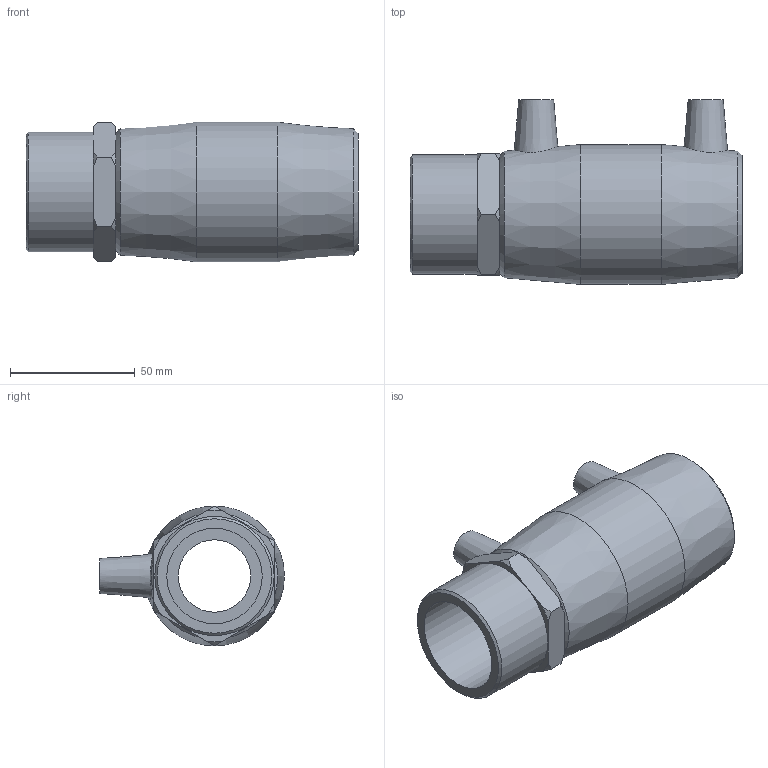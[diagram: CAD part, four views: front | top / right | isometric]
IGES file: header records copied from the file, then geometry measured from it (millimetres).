
Global section: file name: 492104040015.ipt; native system: Autodesk Inventor 2015; preprocessor: unknown; author: KIM; date: 20200202.122314; units: millimetre
Bounding box: 133 x 74 x 56 mm (x, y, z)
Volume: 162821.2 mm3; surface area: 45593.7 mm2
Topology: 1 solids, 2 shells, 54 faces, 129 edges, 88 vertices
Faces by surface type: plane 21, cone 19, revolution 8, cylinder 6
Full cylindrical faces by diameter (mm): 4 x2, 40 x2, 47.803 x1, 56 x1
